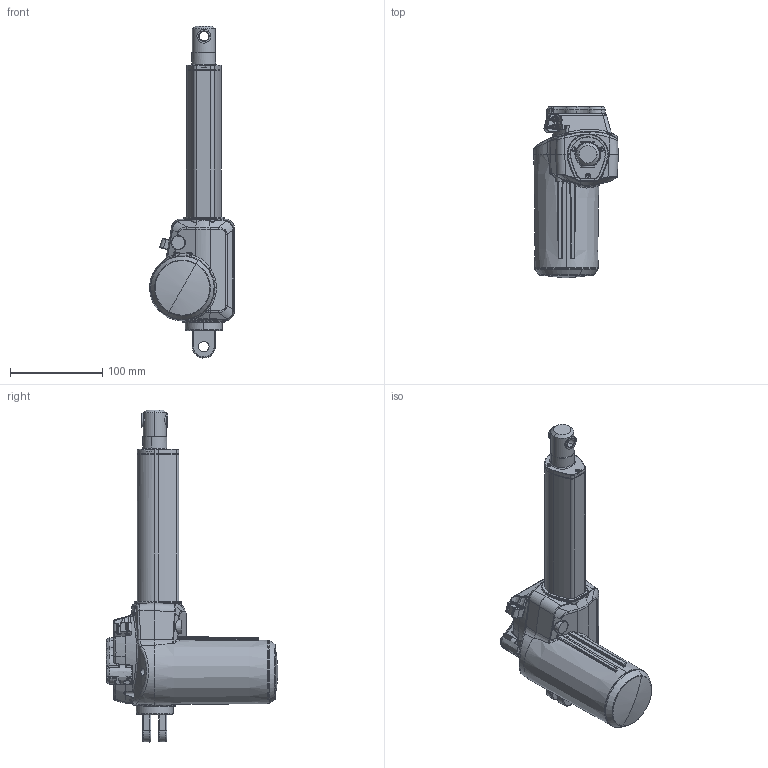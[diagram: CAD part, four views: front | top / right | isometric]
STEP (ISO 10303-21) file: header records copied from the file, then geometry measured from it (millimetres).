
FILE_DESCRIPTION (( 'STEP AP214' ), '1' );
FILE_NAME ('AQR- Assembly.STEP', '2023-10-30T10:33:17', ( '' ), ( '' ), 'SwSTEP 2.0', 'SolidWorks 2023', '' );
FILE_SCHEMA (( 'AUTOMOTIVE_DESIGN' ));
Length unit declared in the file: millimetre
Products named in the file (1): AQR- Assembly
Bounding box: 91.69 x 185.7 x 359.45 mm (x, y, z)
Volume: 1213461.4 mm3; surface area: 100578.9 mm2
Topology: 3 solids, 4 shells, 986 faces, 2399 edges, 1391 vertices
Faces by surface type: bspline 380, cylinder 232, plane 181, cone 87, sphere 57, torus 49
Entity records: 49995 total; most frequent: CARTESIAN_POINT 30205, ORIENTED_EDGE 4698, DIRECTION 3488, EDGE_CURVE 2349, AXIS2_PLACEMENT_3D 1461, VERTEX_POINT 1386, EDGE_LOOP 1011, FACE_OUTER_BOUND 986
